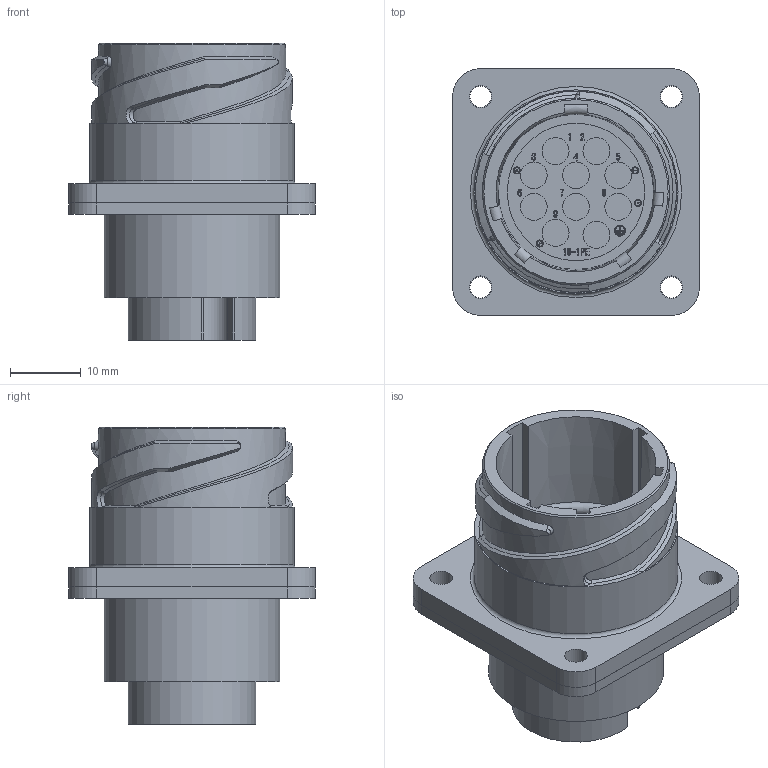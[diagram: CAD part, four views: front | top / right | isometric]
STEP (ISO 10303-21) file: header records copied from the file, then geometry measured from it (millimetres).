
FILE_DESCRIPTION (( 'STEP AP203' ), '1' );
FILE_NAME ('CE01-2A18-1PC-D0S(R1).STEP', '2020-06-30T02:59:04', ( '' ), ( '' ), 'SwSTEP 2.0', 'SolidWorks 2018', '' );
FILE_SCHEMA (( 'CONFIG_CONTROL_DESIGN' ));
Length unit declared in the file: millimetre
Products named in the file (1): CE01-2A18-1PC-D0S(R1)
Bounding box: 34.92 x 34.92 x 42.1 mm (x, y, z)
Volume: 16083.1 mm3; surface area: 9432.3 mm2
Topology: 1 solids, 1 shells, 762 faces, 1981 edges, 1314 vertices
Faces by surface type: bspline 342, plane 321, cylinder 80, cone 16, torus 3
Full cylindrical faces by diameter (mm): 0.8 x4, 1 x4, 1.56 x2, 3 x4, 3.2 x4, 3.8 x19, 19.45 x1, 24.85 x1, 25.02 x1, 25.4 x1, 26.47 x1, 28.87 x1
Entity records: 39943 total; most frequent: CARTESIAN_POINT 23695, ORIENTED_EDGE 3846, DIRECTION 2218, EDGE_CURVE 1923, VERTEX_POINT 1305, VECTOR 1002, LINE 1002, EDGE_LOOP 910
